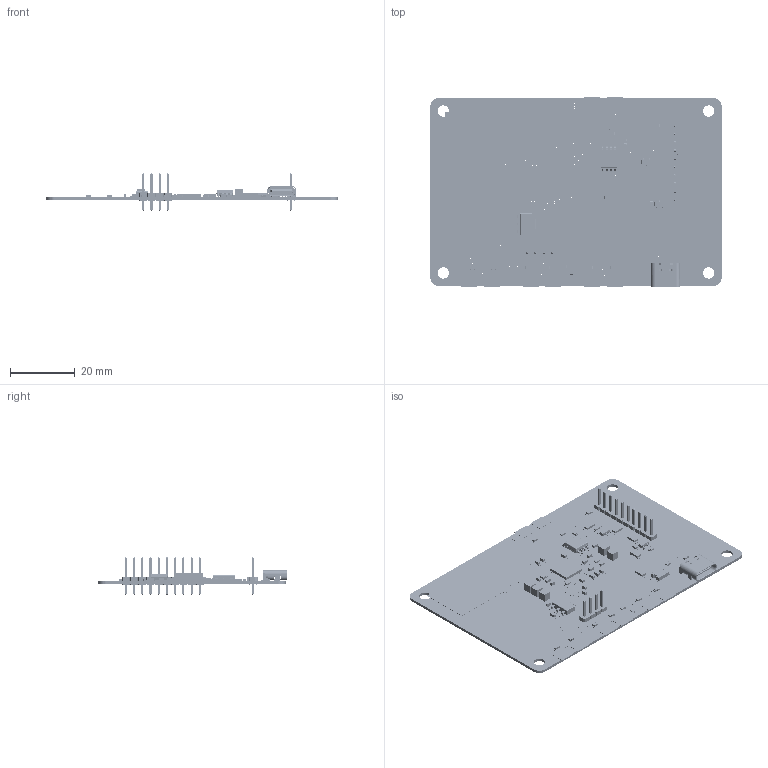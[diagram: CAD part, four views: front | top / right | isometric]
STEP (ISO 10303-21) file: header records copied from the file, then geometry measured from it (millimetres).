
FILE_DESCRIPTION(/* description */ (''),/* implementation_level */ '2;1');
FILE_NAME(/* name */ 'control board.step',/* time_stamp */ '2026-11-14T21:05:00-07:00',/* author */ (''),/* organization */ (''),/* preprocessor_version */ 'ST-DEVELOPER v20.2',/* originating_system */ 'Autodesk Translation Framework v15.17.0.0',/* authorisation */ '');
FILE_SCHEMA (('AUTOMOTIVE_DESIGN { 1 0 10303 214 3 1 1 }'));
Products named in the file (38): 2026-11-14-21-04-42-842; 2026-11-14-21-04-42-845; 2026-11-14-21-04-42-855; 2026-11-14-21-04-43-029; 2026-11-14-21-04-43-071; 2026-11-14-21-04-43-076; 2026-11-14-21-04-43-088; 2026-11-14-21-04-43-088_1; 2026-11-14-21-04-43-089; 2026-11-14-21-04-43-089_1; 2026-11-14-21-04-43-092; 2026-11-14-21-04-43-092_1; 2026-11-14-21-04-43-093; 2026-11-14-21-04-43-095; 2026-11-14-21-04-43-095_1; 2026-11-14-21-04-43-097; 2026-11-14-21-04-43-102; 2026-11-14-21-04-43-104; 2026-11-14-21-04-43-104_1; 2026-11-14-21-04-43-107; 2026-11-14-21-04-43-107_1; 2026-11-14-21-04-43-108; 2026-11-14-21-04-43-108_1; 2026-11-14-21-04-43-109; 2026-11-14-21-04-43-131; 2026-11-14-21-04-43-135; 2026-11-14-21-04-43-157; 2026-11-14-21-04-43-158; 2026-11-14-21-04-43-164; 2026-11-14-21-04-43-166; 2026-11-14-21-04-43-166_1; 2026-11-14-21-04-43-168; 2026-11-14-21-04-43-170; 2026-11-14-21-04-43-173; 2026-11-14-21-04-43-174; 2026-11-14-21-04-43-176; 2026-11-14-21-04-43-178; 2026-11-14-21-04-43-179
Assembly tree (100 placements, depth 5):
  2026-11-14-21-04-42-842
    2026-11-14-21-04-42-845
    2026-11-14-21-04-42-855
    2026-11-14-21-04-43-029
    2026-11-14-21-04-43-071
    2026-11-14-21-04-43-076
    2026-11-14-21-04-43-088
      2026-11-14-21-04-43-088_1
        2026-11-14-21-04-43-089
          2026-11-14-21-04-43-089_1
      2026-11-14-21-04-43-092
        2026-11-14-21-04-43-092_1  x4
        2026-11-14-21-04-43-093
      2026-11-14-21-04-43-095
        2026-11-14-21-04-43-095_1  x10
        2026-11-14-21-04-43-097
      2026-11-14-21-04-43-102
      2026-11-14-21-04-43-104
        2026-11-14-21-04-43-104_1
      2026-11-14-21-04-43-107
      2026-11-14-21-04-43-107_1
      2026-11-14-21-04-43-108
        2026-11-14-21-04-43-108_1
          2026-11-14-21-04-43-109
      2026-11-14-21-04-43-131
        2026-11-14-21-04-43-135
      2026-11-14-21-04-43-157
        2026-11-14-21-04-43-158
      2026-11-14-21-04-43-164  x2
      2026-11-14-21-04-43-166
        2026-11-14-21-04-43-166_1
        2026-11-14-21-04-43-168
        2026-11-14-21-04-43-170
      2026-11-14-21-04-43-173  x8
      2026-11-14-21-04-43-174  x18
      2026-11-14-21-04-43-176  x19
      2026-11-14-21-04-43-178  x5
      2026-11-14-21-04-43-179  x5
Bounding box: 90 x 58.8 x 11.54 mm (x, y, z)
Volume: 5530.9 mm3; surface area: 53612 mm2
Topology: 752 solids, 752 shells, 19054 faces, 51120 edges, 33644 vertices
Faces by surface type: plane 16164, cylinder 2512, sphere 344, cone 18, bspline 16
Full cylindrical faces by diameter (mm): 0.2 x1, 0.23 x306, 0.3 x408, 0.4 x4, 0.5 x2, 0.53 x28, 0.6 x10, 0.8 x48, 1.03 x70, 1.1 x56, 3.5 x12
Entity records: 550591 total; most frequent: CARTESIAN_POINT 97612, ORIENTED_EDGE 95620, DIRECTION 87068, EDGE_CURVE 47810, LINE 43620, VECTOR 43620, VERTEX_POINT 31764, AXIS2_PLACEMENT_3D 21724
